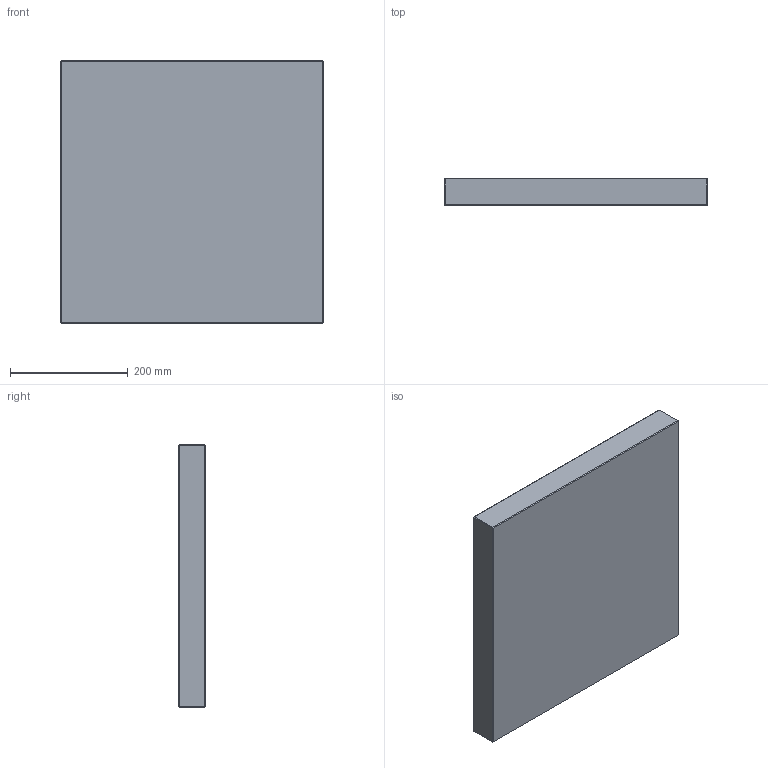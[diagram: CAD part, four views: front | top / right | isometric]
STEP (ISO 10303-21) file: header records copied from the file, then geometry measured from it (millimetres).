
FILE_DESCRIPTION (( 'STEP AP214' ), '1' );
FILE_NAME ('PC-P-446x446x46.STEP', '2020-04-01T11:05:39', ( 'August' ), ( '' ), 'SwSTEP 2.0', 'SolidWorks 2018', '' );
FILE_SCHEMA (( 'AUTOMOTIVE_DESIGN' ));
Length unit declared in the file: millimetre
Products named in the file (1): PC-P-446x446x46
Bounding box: 446 x 46 x 446 mm (x, y, z)
Volume: 9148265.3 mm3; surface area: 477695.1 mm2
Topology: 1 solids, 1 shells, 26 faces, 48 edges, 24 vertices
Faces by surface type: plane 26
Entity records: 634 total; most frequent: DIRECTION 102, CARTESIAN_POINT 99, ORIENTED_EDGE 96, LINE 48, EDGE_CURVE 48, VECTOR 48, AXIS2_PLACEMENT_3D 27, ADVANCED_FACE 26
